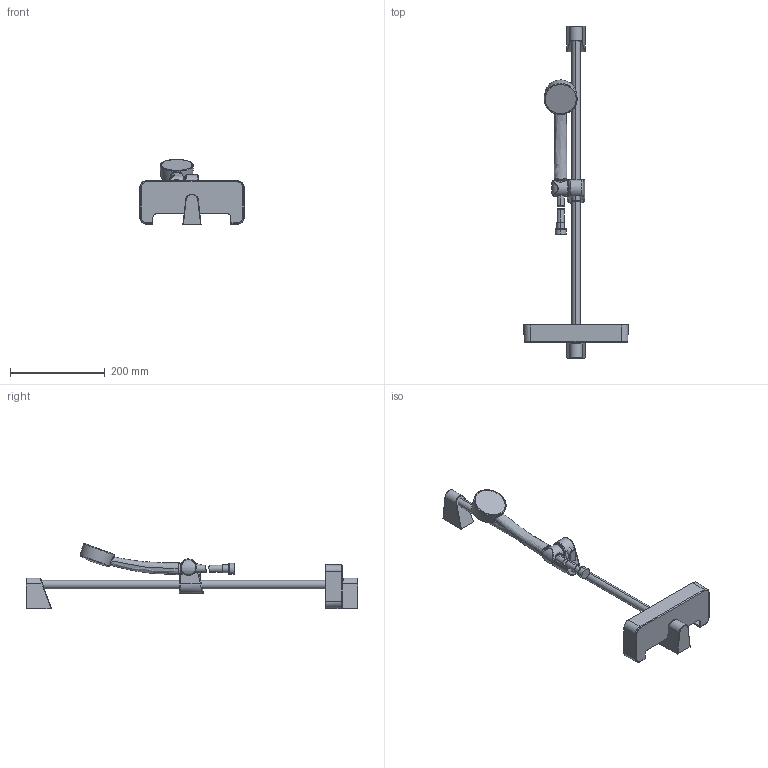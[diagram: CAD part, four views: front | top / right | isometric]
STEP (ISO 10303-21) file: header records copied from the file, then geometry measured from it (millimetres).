
FILE_DESCRIPTION (( 'STEP AP203' ), '1' );
FILE_NAME ('521(2016).STEP', '2019-06-14T08:53:58', ( '' ), ( '' ), 'SwSTEP 2.0', 'SolidWorks 2016', '' );
FILE_SCHEMA (( 'CONFIG_CONTROL_DESIGN' ));
Length unit declared in the file: millimetre
Products named in the file (1): 521(2016)
Bounding box: 220.3 x 701 x 137.64 mm (x, y, z)
Volume: 775659.2 mm3; surface area: 183867.3 mm2
Topology: 11 solids, 11 shells, 413 faces, 954 edges, 555 vertices
Faces by surface type: bspline 187, cylinder 76, plane 70, torus 53, cone 19, sphere 8
Entity records: 23060 total; most frequent: CARTESIAN_POINT 15114, ORIENTED_EDGE 1876, DIRECTION 1325, EDGE_CURVE 938, AXIS2_PLACEMENT_3D 569, VERTEX_POINT 555, EDGE_LOOP 421, FACE_OUTER_BOUND 413
